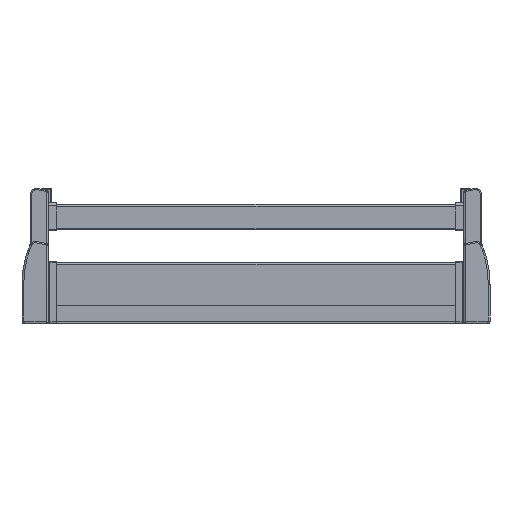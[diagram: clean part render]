
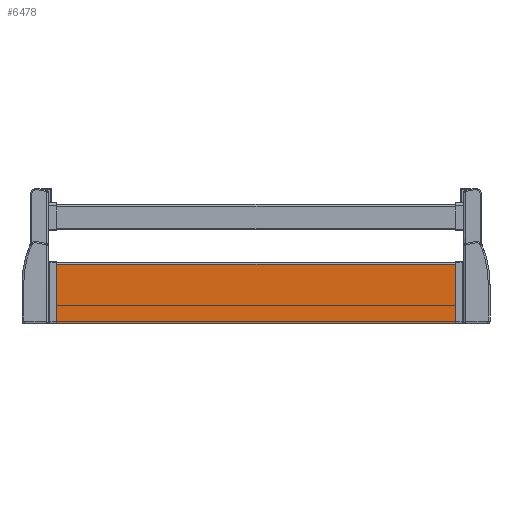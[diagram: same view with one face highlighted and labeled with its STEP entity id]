
A CAD part, top view. The second image highlights one B-rep face of the part: STEP entity #6478.
In plain terms, the highlighted planar face has unit normal (0, 0, 1).
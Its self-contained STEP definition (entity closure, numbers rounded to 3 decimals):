
#1946 = DIRECTION ( 'NONE',  ( 0., 1., 0. ) ) ;
#1947 = VECTOR ( 'NONE', #1946, 1000. ) ;
#1948 = CARTESIAN_POINT ( 'NONE',  ( 235.8, -92.5, 1.4 ) ) ;
#1949 = LINE ( 'NONE', #1948, #1947 ) ;
#1950 = CARTESIAN_POINT ( 'NONE',  ( 235.8, -92.5, 1.4 ) ) ;
#1996 = CARTESIAN_POINT ( 'NONE',  ( 235.8, -23., 1.4 ) ) ;
#3527 = CARTESIAN_POINT ( 'NONE',  ( -235.8, -92.5, 1.4 ) ) ;
#3532 = DIRECTION ( 'NONE',  ( 0., 1., 0. ) ) ;
#3533 = DIRECTION ( 'NONE',  ( 0., 0., -1. ) ) ;
#3534 = CARTESIAN_POINT ( 'NONE',  ( 309.556, -92.5, 1.4 ) ) ;
#3537 = AXIS2_PLACEMENT_3D ( 'NONE', #3534, #3533, #3532 ) ;
#3538 = PLANE ( 'NONE',  #3537 ) ;
#3544 = FACE_OUTER_BOUND ( 'NONE', #6479, .T. ) ;
#3580 = DIRECTION ( 'NONE',  ( -1., 0., 0. ) ) ;
#3581 = VECTOR ( 'NONE', #3580, 1000. ) ;
#3582 = CARTESIAN_POINT ( 'NONE',  ( 309.556, -92.5, 1.4 ) ) ;
#3587 = LINE ( 'NONE', #3582, #3581 ) ;
#3779 = DIRECTION ( 'NONE',  ( 0., 1., 0. ) ) ;
#3780 = VECTOR ( 'NONE', #3779, 1000. ) ;
#3781 = CARTESIAN_POINT ( 'NONE',  ( -235.8, -92.5, 1.4 ) ) ;
#3782 = LINE ( 'NONE', #3781, #3780 ) ;
#3820 = CARTESIAN_POINT ( 'NONE',  ( -235.8, -23., 1.4 ) ) ;
#3854 = DIRECTION ( 'NONE',  ( -1., 0., 0. ) ) ;
#3855 = VECTOR ( 'NONE', #3854, 1000. ) ;
#3856 = CARTESIAN_POINT ( 'NONE',  ( 309.556, -23., 1.4 ) ) ;
#3857 = LINE ( 'NONE', #3856, #3855 ) ;
#5602 = VERTEX_POINT ( 'NONE', #1950 ) ;
#5603 = EDGE_CURVE ( 'NONE', #5602, #5608, #1949, .T. ) ;
#5608 = VERTEX_POINT ( 'NONE', #1996 ) ;
#6477 = ORIENTED_EDGE ( 'NONE', *, *, #5603, .T. ) ;
#6478 = ADVANCED_FACE ( 'NONE', ( #3544 ), #3538, .F. ) ;
#6479 = EDGE_LOOP ( 'NONE', ( #6481, #6477, #6638, #6612 ) ) ;
#6481 = ORIENTED_EDGE ( 'NONE', *, *, #6494, .F. ) ;
#6486 = VERTEX_POINT ( 'NONE', #3527 ) ;
#6494 = EDGE_CURVE ( 'NONE', #5602, #6486, #3587, .T. ) ;
#6609 = EDGE_CURVE ( 'NONE', #6486, #6615, #3782, .T. ) ;
#6612 = ORIENTED_EDGE ( 'NONE', *, *, #6609, .F. ) ;
#6615 = VERTEX_POINT ( 'NONE', #3820 ) ;
#6638 = ORIENTED_EDGE ( 'NONE', *, *, #6639, .T. ) ;
#6639 = EDGE_CURVE ( 'NONE', #5608, #6615, #3857, .T. ) ;
